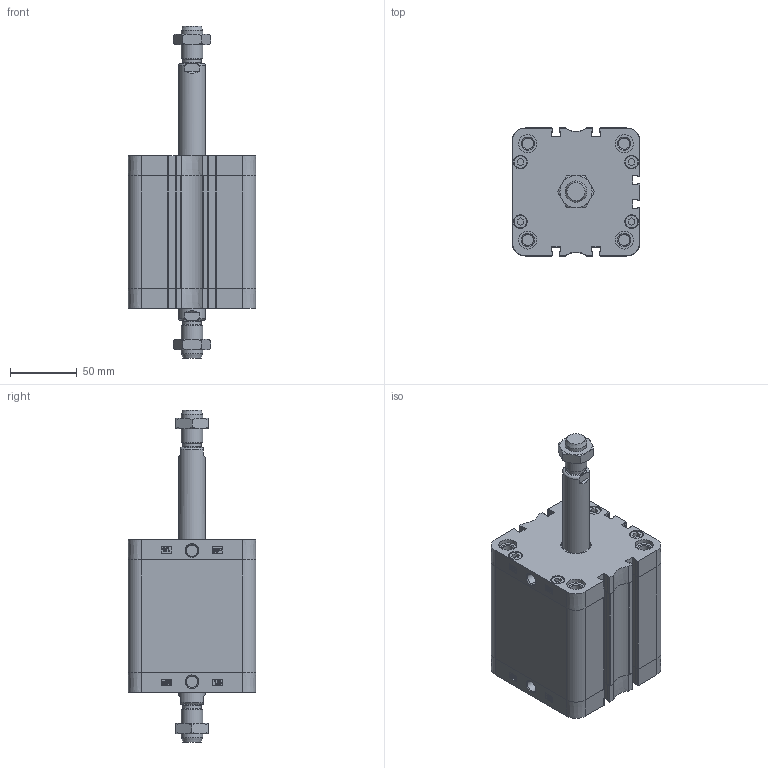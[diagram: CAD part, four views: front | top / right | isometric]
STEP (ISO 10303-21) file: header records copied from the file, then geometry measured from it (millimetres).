
FILE_DESCRIPTION(/* description */ ('Unknown'),/* implementation_level */ '2;1');
FILE_NAME(/* name */ 'ZBF 80_60',/* time_stamp */ '2024-11-20T07:59:37+01:00',/* author */ ('Unknown'),/* organization */ ('Unknown'),/* preprocessor_version */ 'ST-DEVELOPER v16.7',/* originating_system */ 'Solid Edge',/* authorisation */ 'Unknown');
FILE_SCHEMA (('AUTOMOTIVE_DESIGN {1 0 10303 214 3 1 1}'));
Length unit declared in the file: millimetre
Products named in the file (5): ZBF 80_60; Profilrohr; Kolbenstange; Mutter; Kit
Assembly tree (7 placements, depth 2):
  ZBF 80_60
    Profilrohr
    Kolbenstange  x2
    Mutter  x2
    Kit  x2
Bounding box: 95.5 x 95.5 x 248 mm (x, y, z)
Volume: 739070.5 mm3; surface area: 165665.2 mm2
Topology: 7 solids, 7 shells, 809 faces, 2109 edges, 1386 vertices
Faces by surface type: plane 366, cylinder 215, bspline 122, cone 80, torus 26
Full cylindrical faces by diameter (mm): 8.376 x8, 8.566 x2, 9.8 x8, 10.3 x8, 13.5 x10, 14.376 x2, 16 x2, 20 x2, 20.6 x2, 21.9 x2, 23 x2, 25 x2, 80 x3
Entity records: 16759 total; most frequent: CARTESIAN_POINT 3407, ORIENTED_EDGE 2292, DIRECTION 2137, EDGE_CURVE 1146, VERTEX_POINT 791, AXIS2_PLACEMENT_3D 742, LINE 653, VECTOR 653
